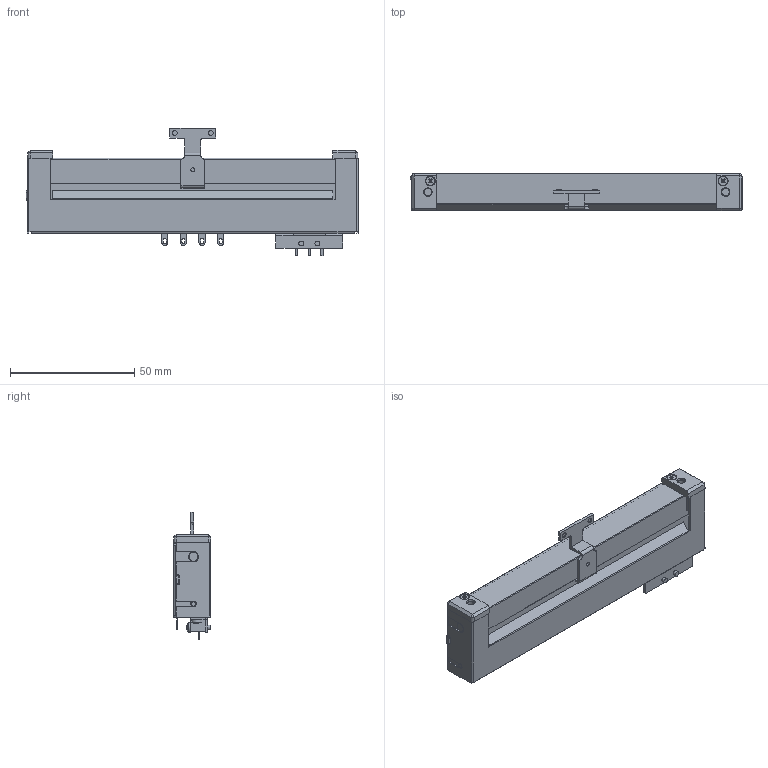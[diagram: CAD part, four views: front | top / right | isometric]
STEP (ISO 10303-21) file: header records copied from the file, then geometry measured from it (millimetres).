
FILE_DESCRIPTION(('FreeCAD Model'),'2;1');
FILE_NAME('Open CASCADE Shape Model','2023-04-07T11:10:38',(''),(''), 'Open CASCADE STEP processor 7.6','FreeCAD','Unknown');
FILE_SCHEMA(('AUTOMOTIVE_DESIGN { 1 0 10303 214 1 1 1 1 }'));
Length unit declared in the file: millimetre
Products named in the file (1): cpa-9101w
Bounding box: 133.8 x 15.2 x 51.5 mm (x, y, z)
Volume: 50145.1 mm3; surface area: 26755.2 mm2
Topology: 1 solids, 6 shells, 693 faces, 1813 edges, 1133 vertices
Faces by surface type: plane 496, cylinder 112, cone 51, bspline 18, revolution 6, sphere 6, torus 4
Full cylindrical faces by diameter (mm): 1.1 x2, 1.5 x2, 1.6 x3, 2 x12, 2.2 x7, 2.6 x3, 3 x2, 3.6 x2, 4 x12
Entity records: 48552 total; most frequent: CARTESIAN_POINT 10817, DIRECTION 6291, ORIENTED_EDGE 3616, PCURVE 3610, DEFINITIONAL_REPRESENTATION 3610, LINE 3548, VECTOR 3548, EDGE_CURVE 1805
